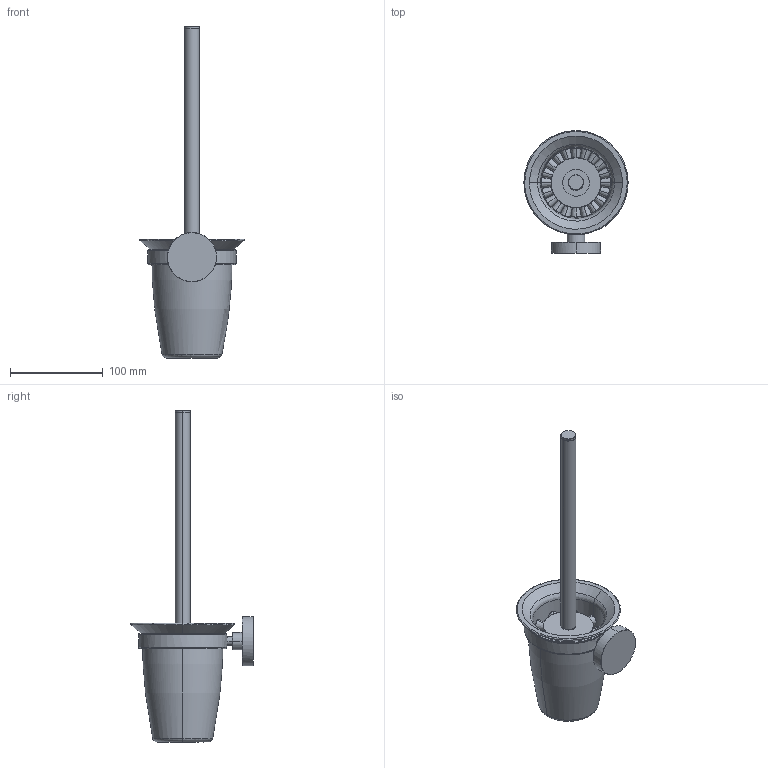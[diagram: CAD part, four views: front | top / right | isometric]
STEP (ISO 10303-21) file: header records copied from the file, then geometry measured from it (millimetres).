
FILE_DESCRIPTION(('THIS FILE CONTAINS SOME STEP INSTANCES'),'1');
FILE_NAME('HAR 052-light.stp','2015-11-18T10:23:17',('UNDEFINED'),('UNDEFINED'),'T-FLEX CAD STEP converter','T-FLEX CAD','');
FILE_SCHEMA(('CONFIG_CONTROL_DESIGN'));
Products named in the file (3): 3D 鐨飹懤艜_14; har_052; WC Brush Bulb-light
Bounding box: 112.44 x 132.42 x 358 mm (x, y, z)
Volume: 405264.9 mm3; surface area: 167456.6 mm2
Topology: 3 solids, 3 shells, 373 faces, 755 edges, 476 vertices
Faces by surface type: cone 282, cylinder 34, sphere 21, plane 20, torus 14, bspline 2
Entity records: 34479 total; most frequent: CARTESIAN_POINT 27956, ORIENTED_EDGE 1506, DIRECTION 946, EDGE_CURVE 753, VERTEX_POINT 476, EDGE_LOOP 465, ADVANCED_FACE 373, FACE_OUTER_BOUND 373
